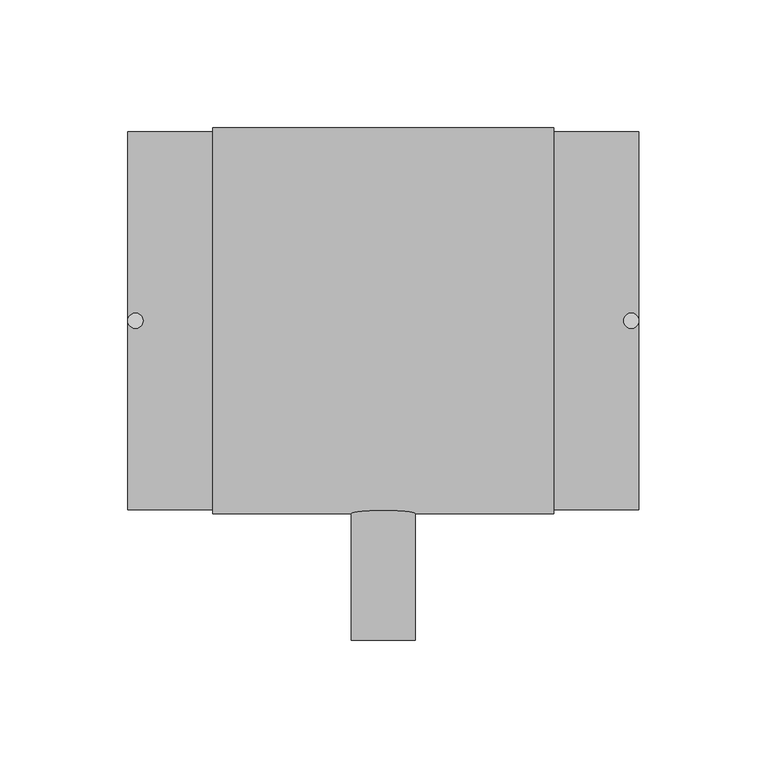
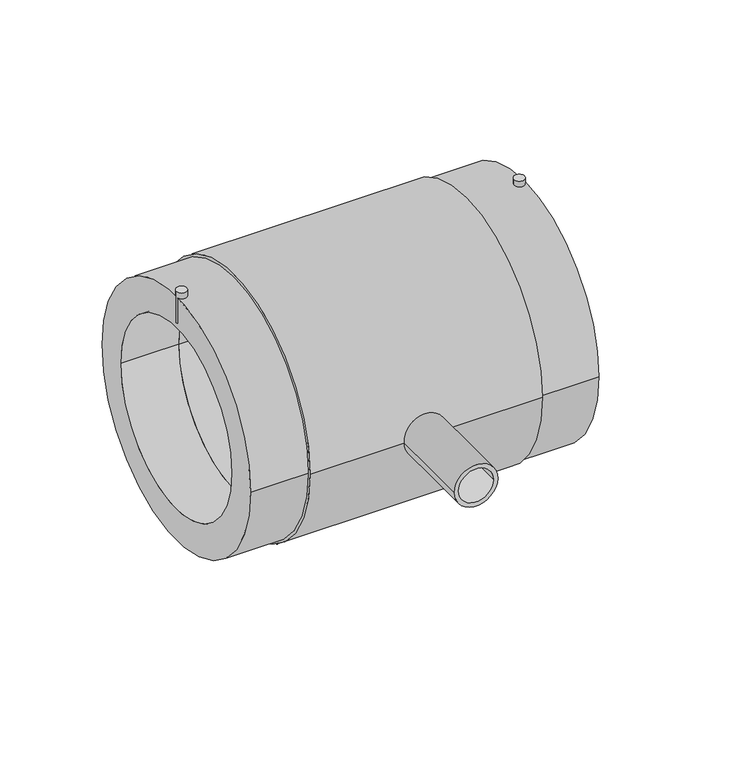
"""IFC4 building model written with IfcOpenShell, lengths in millimetres: pipe fitting geometry, EGB_VASEN_ PPR_Te electrosoldable WXRD300_Te reducida electrosoldable WXRD310 : Te electrosoldable."""

from ifc_helpers import new_model, si_unit, point, frame, frame_2d, origin, origin_2d, place, context, project, spatial, circle_curve, trimmed, segment, composite_curve, outline, extrude, source, transform, mapped, element, save


def pipe_fitting_11c0946c(model_context):
    return source(origin(), model_context, "Body", "SweptSolid", [
        extrude(outline(composite_curve([segment(trimmed(circle_curve(frame_2d((-97.0, 0.0)), 3.0), [point((-100.0, 0.0))], [point((-94.0, 0.0))], False, "CARTESIAN"), True, "CONTINUOUS"), segment(trimmed(circle_curve(frame_2d((-97.0, 0.0)), 3.0), [point((-94.0, 0.0))], [point((-100.0, 0.0))], False, "CARTESIAN"), True, "CONTINUOUS")], self_intersect=False)), frame((0.0, 0.0, 58.0), z_axis=(0.0, 0.0, 1.0), x_axis=(1.0, 0.0, 0.0)), (0.0, 0.0, 1.0), 19.0),
        extrude(outline(composite_curve([segment(trimmed(circle_curve(frame_2d((97.0, 0.0)), 3.0), [point((94.0, 0.0))], [point((100.0, 0.0))], False, "CARTESIAN"), True, "CONTINUOUS"), segment(trimmed(circle_curve(frame_2d((97.0, 0.0)), 3.0), [point((100.0, 0.0))], [point((94.0, 0.0))], False, "CARTESIAN"), True, "CONTINUOUS")], self_intersect=False)), frame((0.0, 0.0, 58.0), z_axis=(0.0, 0.0, 1.0), x_axis=(1.0, 0.0, 0.0)), (0.0, 0.0, 1.0), 19.0),
        extrude(outline(composite_curve([segment(trimmed(circle_curve(origin_2d(), 15.0), [point((0.0, 15.0))], [point((0.0, -15.0))], False, "CARTESIAN"), True, "CONTINUOUS"), segment(trimmed(circle_curve(origin_2d(), 15.0), [point((0.0, -15.0))], [point((0.0, 15.0))], False, "CARTESIAN"), True, "CONTINUOUS")], self_intersect=False)), frame((0.0, -50.0, 0.0), z_axis=(0.0, 1.0, 0.0), x_axis=(0.0, 0.0, 1.0)), (0.0, 0.0, 1.0), 50.0),
        extrude(outline(composite_curve([segment(trimmed(circle_curve(origin_2d(), 12.5), [point((0.0, -12.5))], [point((0.0, 12.5))], False, "CARTESIAN"), True, "CONTINUOUS"), segment(trimmed(circle_curve(origin_2d(), 12.5), [point((0.0, 12.5))], [point((0.0, -12.5))], False, "CARTESIAN"), True, "CONTINUOUS")], self_intersect=False), holes=[composite_curve([segment(trimmed(circle_curve(origin_2d(), 10.0), [point((0.0, -10.0))], [point((0.0, 10.0))], True, "CARTESIAN"), True, "CONTINUOUS"), segment(trimmed(circle_curve(origin_2d(), 10.0), [point((0.0, 10.0))], [point((0.0, -10.0))], True, "CARTESIAN"), True, "CONTINUOUS")], self_intersect=False)]), frame((0.0, -125.0, 0.0), z_axis=(0.0, 1.0, 0.0), x_axis=(0.0, 0.0, 1.0)), (0.0, 0.0, 1.0), 75.0),
        extrude(outline(composite_curve([segment(trimmed(circle_curve(origin_2d(), 75.5), [point((-75.5, 0.0))], [point((75.5, 0.0))], False, "CARTESIAN"), True, "CONTINUOUS"), segment(trimmed(circle_curve(origin_2d(), 75.5), [point((75.5, 0.0))], [point((-75.5, 0.0))], False, "CARTESIAN"), True, "CONTINUOUS")], self_intersect=False), holes=[composite_curve([segment(trimmed(circle_curve(origin_2d(), 55.0), [point((-55.0, 0.0))], [point((55.0, 0.0))], True, "CARTESIAN"), True, "CONTINUOUS"), segment(trimmed(circle_curve(origin_2d(), 55.0), [point((55.0, 0.0))], [point((-55.0, 0.0))], True, "CARTESIAN"), True, "CONTINUOUS")], self_intersect=False)]), frame((-66.6666667, 0.0, 0.0), z_axis=(1.0, 0.0, 0.0), x_axis=(0.0, 1.0, 0.0)), (0.0, 0.0, 1.0), 133.3333333),
        extrude(outline(composite_curve([segment(trimmed(circle_curve(origin_2d(), 74.0), [point((-74.0, 0.0))], [point((74.0, 0.0))], False, "CARTESIAN"), True, "CONTINUOUS"), segment(trimmed(circle_curve(origin_2d(), 74.0), [point((74.0, 0.0))], [point((-74.0, 0.0))], False, "CARTESIAN"), True, "CONTINUOUS")], self_intersect=False), holes=[composite_curve([segment(trimmed(circle_curve(origin_2d(), 55.0), [point((-55.0, 0.0))], [point((55.0, 0.0))], True, "CARTESIAN"), True, "CONTINUOUS"), segment(trimmed(circle_curve(origin_2d(), 55.0), [point((55.0, 0.0))], [point((-55.0, 0.0))], True, "CARTESIAN"), True, "CONTINUOUS")], self_intersect=False)]), frame((-100.0, 0.0, 0.0), z_axis=(1.0, 0.0, 0.0), x_axis=(0.0, 1.0, 0.0)), (0.0, 0.0, 1.0), 200.0),
    ])


if __name__ == "__main__":
    model = new_model("IFC4")
    model_context = context("Model", 3, world=origin())
    ifc_project = project(units=[si_unit("LENGTHUNIT", "METRE", prefix="MILLI")], contexts=[model_context])
    site = spatial("IfcSite", under=ifc_project)
    building = spatial("IfcBuilding", under=site)
    placement = place(None, origin())
    pipe_fitting_shape = pipe_fitting_11c0946c(model_context)
    element("IfcPipeFitting", 1, ObjectType="EGB_VASEN_ PPR_Te electrosoldable WXRD300_Te reducida electrosoldable WXRD310 : Te electrosoldable", at=placement, inside=building, context=model_context, shape_type="MappedRepresentation", body=[
        mapped(pipe_fitting_shape, transform((0.0, 0.0, 0.0), x_axis=(1.0, 0.0, 0.0), y_axis=(0.0, 1.0, 0.0), z_axis=(0.0, 0.0, 1.0))),
    ])
    save(model, "model.ifc")
